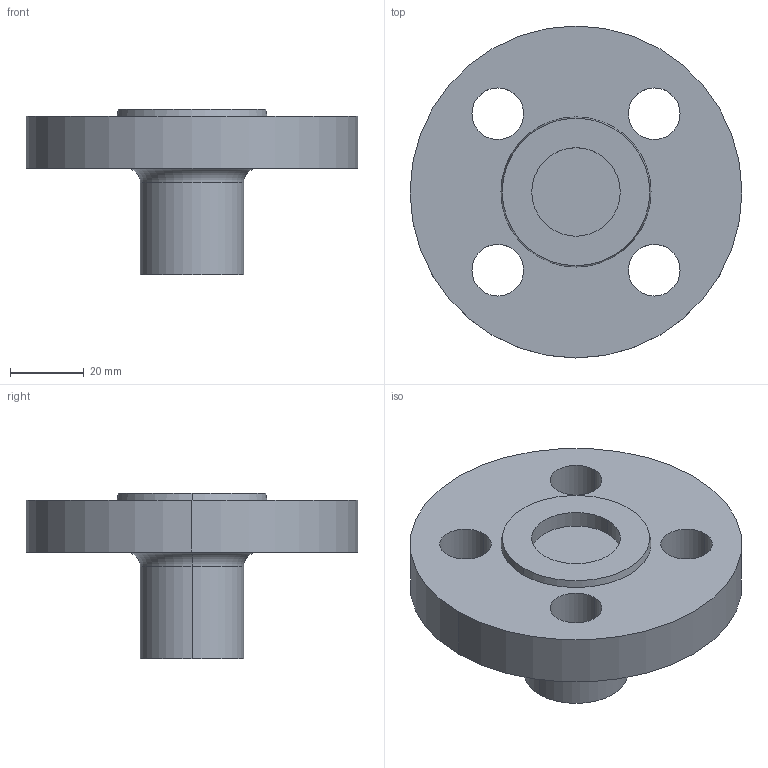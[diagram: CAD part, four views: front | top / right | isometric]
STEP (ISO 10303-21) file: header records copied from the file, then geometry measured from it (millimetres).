
FILE_DESCRIPTION (( 'STEP AP214' ), '1' );
FILE_NAME ('PN40 DN10 Type 21(i) - Type G Face.STEP', '2018-12-29T05:07:08', ( '' ), ( '' ), 'SwSTEP 2.0', 'SolidWorks 2019', '' );
FILE_SCHEMA (( 'AUTOMOTIVE_DESIGN' ));
Length unit declared in the file: millimetre
Products named in the file (1): PN40 DN10 Type 21(i) - Type G Face
Bounding box: 90 x 90 x 45 mm (x, y, z)
Volume: 99143.8 mm3; surface area: 20872.5 mm2
Topology: 1 solids, 1 shells, 23 faces, 52 edges, 34 vertices
Faces by surface type: cylinder 14, plane 5, torus 2, cone 2
Entity records: 716 total; most frequent: DIRECTION 136, CARTESIAN_POINT 110, ORIENTED_EDGE 104, AXIS2_PLACEMENT_3D 60, EDGE_CURVE 52, CIRCLE 36, VERTEX_POINT 34, EDGE_LOOP 34
